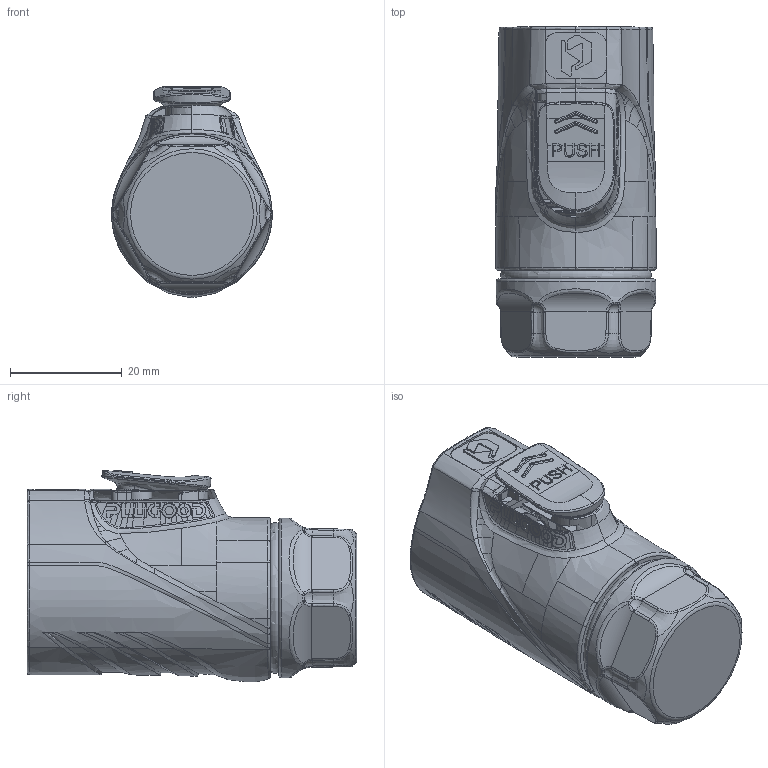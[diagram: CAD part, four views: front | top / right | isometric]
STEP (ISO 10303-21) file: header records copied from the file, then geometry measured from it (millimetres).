
FILE_DESCRIPTION (( 'STEP AP203' ), '1' );
FILE_NAME ('PLG20 5Ð¾²åÍ·.STEP', '2025-03-20T06:08:41', ( '' ), ( '' ), 'SwSTEP 2.0', 'SolidWorks 2024', '' );
FILE_SCHEMA (( 'CONFIG_CONTROL_DESIGN' ));
Products named in the file (1): PLG20 5芯插头
Bounding box: 28.77 x 59.1 x 37.93 mm (x, y, z)
Topology: 2 solids, 7 shells, 1185 faces, 3157 edges, 2015 vertices
Faces by surface type: bspline 655, plane 306, cylinder 123, torus 51, cone 48, sphere 2
Full cylindrical faces by diameter (mm): 1.5 x3, 1.519 x1, 1.6 x2, 1.9 x5, 2.15 x5, 2.5 x1, 2.65 x1, 4.5 x1, 16.2 x1, 17.5 x1, 17.6 x1, 19.2 x2, 19.3 x2, 19.4 x2, 22.183 x7, 28.6 x1
Entity records: 90339 total; most frequent: CARTESIAN_POINT 67233, ORIENTED_EDGE 6074, EDGE_CURVE 3037, DIRECTION 2633, VERTEX_POINT 1966, B_SPLINE_CURVE_WITH_KNOTS 1782, EDGE_LOOP 1281, FACE_OUTER_BOUND 1229
